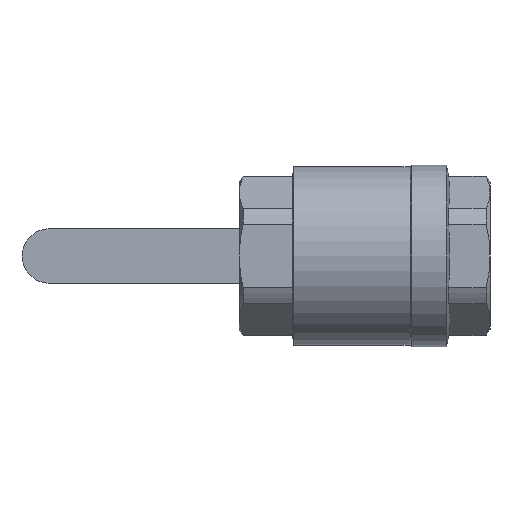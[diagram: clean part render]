
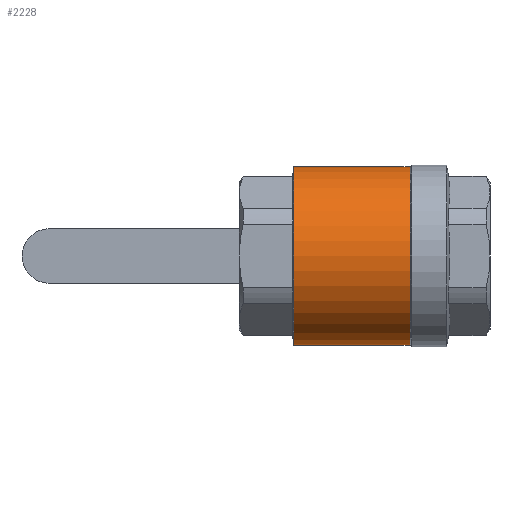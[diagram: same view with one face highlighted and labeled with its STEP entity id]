
A CAD part, front view. The second image highlights one B-rep face of the part: STEP entity #2228.
In plain terms, the highlighted cylindrical face has radius 78.5 mm (diameter 157 mm), a partial arc.
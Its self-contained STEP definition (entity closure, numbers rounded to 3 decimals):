
#101 = DIRECTION ( 'NONE',  ( -1., 0., 0. ) ) ;
#119 = CARTESIAN_POINT ( 'NONE',  ( -62.5, 0., 78.5 ) ) ;
#142 = ORIENTED_EDGE ( 'NONE', *, *, #4669, .F. ) ;
#165 = CARTESIAN_POINT ( 'NONE',  ( 40., 0., 0. ) ) ;
#198 = CARTESIAN_POINT ( 'NONE',  ( -55.019, 0., -78.5 ) ) ;
#359 = ORIENTED_EDGE ( 'NONE', *, *, #1332, .T. ) ;
#607 = DIRECTION ( 'NONE',  ( 0., 0., 1. ) ) ;
#755 = VERTEX_POINT ( 'NONE', #3697 ) ;
#877 = CARTESIAN_POINT ( 'NONE',  ( 40., 0., 78.5 ) ) ;
#919 = AXIS2_PLACEMENT_3D ( 'NONE', #2310, #101, #2684 ) ;
#1188 = AXIS2_PLACEMENT_3D ( 'NONE', #3183, #3947, #4676 ) ;
#1332 = EDGE_CURVE ( 'NONE', #755, #2806, #3180, .T. ) ;
#1488 = VECTOR ( 'NONE', #1802, 1000. ) ;
#1560 = ORIENTED_EDGE ( 'NONE', *, *, #3660, .T. ) ;
#1603 = LINE ( 'NONE', #2179, #1488 ) ;
#1636 = CARTESIAN_POINT ( 'NONE',  ( -62.5, 0., -78.5 ) ) ;
#1683 = EDGE_LOOP ( 'NONE', ( #2858, #359, #1560, #142 ) ) ;
#1802 = DIRECTION ( 'NONE',  ( -1., 0., 0. ) ) ;
#1954 = VECTOR ( 'NONE', #3140, 1000. ) ;
#2179 = CARTESIAN_POINT ( 'NONE',  ( -55.019, 0., 78.5 ) ) ;
#2228 = ADVANCED_FACE ( 'NONE', ( #2635 ), #3533, .T. ) ;
#2310 = CARTESIAN_POINT ( 'NONE',  ( -62.5, 0., 0. ) ) ;
#2464 = VERTEX_POINT ( 'NONE', #119 ) ;
#2635 = FACE_OUTER_BOUND ( 'NONE', #1683, .T. ) ;
#2684 = DIRECTION ( 'NONE',  ( 0., 0., 1. ) ) ;
#2740 = DIRECTION ( 'NONE',  ( -1., 0., 0. ) ) ;
#2806 = VERTEX_POINT ( 'NONE', #877 ) ;
#2831 = LINE ( 'NONE', #198, #1954 ) ;
#2858 = ORIENTED_EDGE ( 'NONE', *, *, #4053, .F. ) ;
#3140 = DIRECTION ( 'NONE',  ( -1., 0., 0. ) ) ;
#3180 = CIRCLE ( 'NONE', #4502, 78.5 ) ;
#3183 = CARTESIAN_POINT ( 'NONE',  ( -55.019, 0., 0. ) ) ;
#3533 = CYLINDRICAL_SURFACE ( 'NONE', #1188, 78.5 ) ;
#3660 = EDGE_CURVE ( 'NONE', #2806, #2464, #1603, .T. ) ;
#3697 = CARTESIAN_POINT ( 'NONE',  ( 40., 0., -78.5 ) ) ;
#3947 = DIRECTION ( 'NONE',  ( -1., 0., 0. ) ) ;
#4053 = EDGE_CURVE ( 'NONE', #755, #4193, #2831, .T. ) ;
#4193 = VERTEX_POINT ( 'NONE', #1636 ) ;
#4502 = AXIS2_PLACEMENT_3D ( 'NONE', #165, #2740, #607 ) ;
#4669 = EDGE_CURVE ( 'NONE', #4193, #2464, #4808, .T. ) ;
#4676 = DIRECTION ( 'NONE',  ( 0., 0., 1. ) ) ;
#4808 = CIRCLE ( 'NONE', #919, 78.5 ) ;
